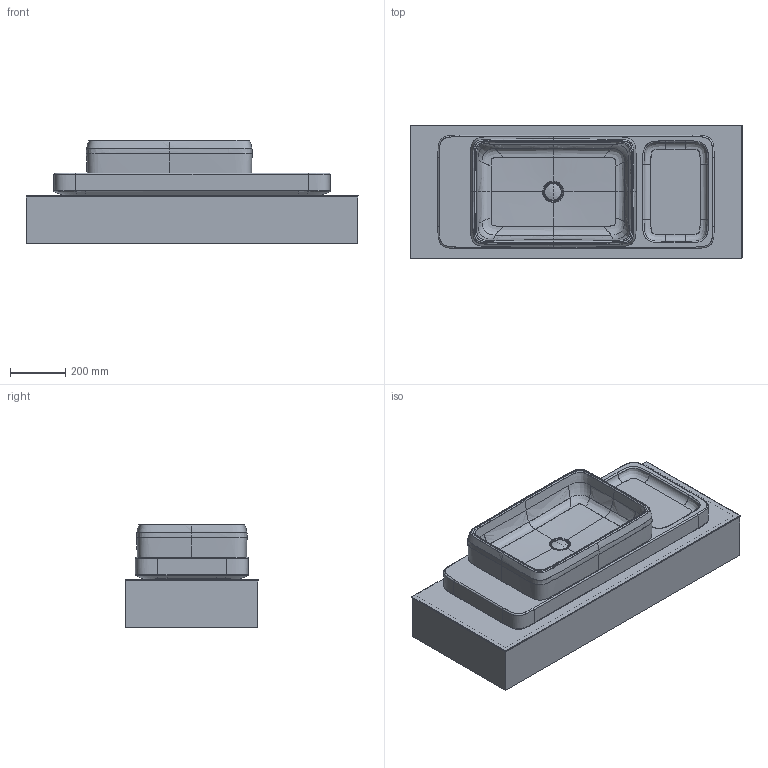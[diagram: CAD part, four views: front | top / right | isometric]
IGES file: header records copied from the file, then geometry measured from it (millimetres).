
Global section: file name: d:\users\matthias.isele\Desktop\Keramik\Qatego\D4800100_D4800200_D4800300\3D\D4800100_D4800200_D4800300_QA4699_1200.igs; native system: Rhinoceros ( Sep 13 2016 ); preprocessor: Trout Lake IGES 012 Sep 13 2016; date: 230314.085626; units: millimetre
Bounding box: 1202 x 481 x 376.11 mm (x, y, z)
Surface area: 5019182.9 mm2 (no closed solid volume)
Topology: 0 solids, 0 shells, 381 faces, 3845 edges, 3835 vertices
Faces by surface type: bspline 381
